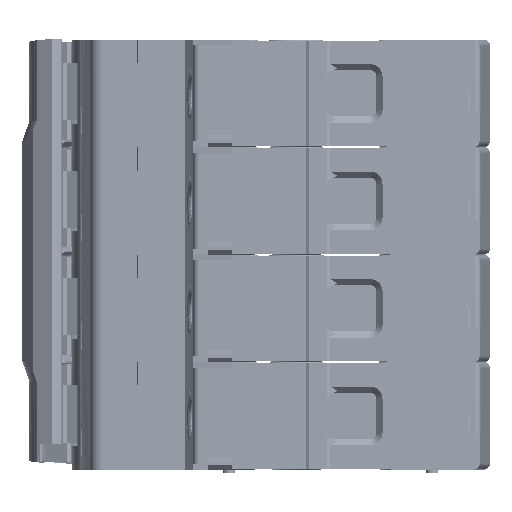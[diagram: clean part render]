
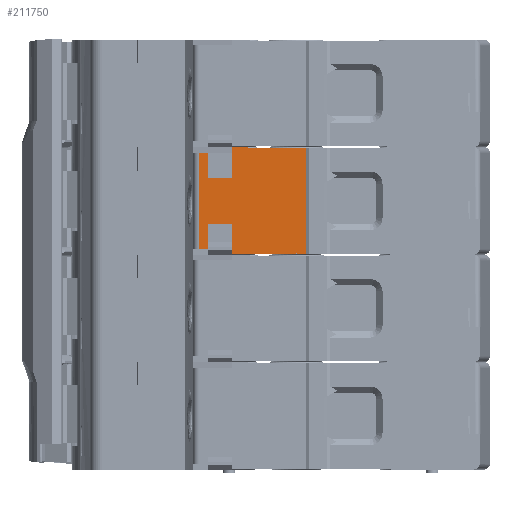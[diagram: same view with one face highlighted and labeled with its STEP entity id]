
A CAD part, left-side view. The second image highlights one B-rep face of the part: STEP entity #211750.
In plain terms, the highlighted planar face has unit normal (-1, 0, 0).
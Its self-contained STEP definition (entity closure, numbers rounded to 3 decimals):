
#15345=DIRECTION('',(0.,-1.,0.));
#15346=VECTOR('',#15345,2.);
#15347=CARTESIAN_POINT('',(4.829,53.476,
-35.26));
#15348=LINE('',#15347,#15346);
#16526=DIRECTION('',(0.,0.,-1.));
#16527=VECTOR('',#16526,4.85);
#16528=CARTESIAN_POINT('',(4.829,53.476,
-30.41));
#16529=LINE('',#16528,#16527);
#16580=DIRECTION('',(0.,0.,-1.));
#16581=VECTOR('',#16580,0.2);
#16582=CARTESIAN_POINT('',(4.829,42.876,
-35.06));
#16583=LINE('',#16582,#16581);
#16584=DIRECTION('',(0.,0.,-1.));
#16585=VECTOR('',#16584,4.05);
#16586=CARTESIAN_POINT('',(4.829,57.476,
-30.41));
#16587=LINE('',#16586,#16585);
#16588=DIRECTION('',(0.,1.,0.));
#16589=VECTOR('',#16588,1.396);
#16590=CARTESIAN_POINT('',(4.829,57.476,
-34.46));
#16591=LINE('',#16590,#16589);
#16592=DIRECTION('',(0.,0.,1.));
#16593=VECTOR('',#16592,15.8);
#16594=CARTESIAN_POINT('',(4.829,58.872,
-34.46));
#16595=LINE('',#16594,#16593);
#16596=DIRECTION('',(0.,-1.,0.));
#16597=VECTOR('',#16596,4.025);
#16598=CARTESIAN_POINT('',(4.829,57.476,
-22.71));
#16599=LINE('',#16598,#16597);
#16600=DIRECTION('',(0.,0.,1.));
#16601=VECTOR('',#16600,5.);
#16602=CARTESIAN_POINT('',(4.829,53.451,
-22.71));
#16603=LINE('',#16602,#16601);
#16604=CARTESIAN_POINT('',(4.829,51.476,
-17.71));
#16605=CARTESIAN_POINT('',(4.829,51.433,
-17.71));
#16606=CARTESIAN_POINT('',(4.829,51.347,
-17.712));
#16607=CARTESIAN_POINT('',(4.829,51.22,
-17.719));
#16608=CARTESIAN_POINT('',(4.829,51.092,
-17.731));
#16609=CARTESIAN_POINT('',(4.829,50.965,
-17.748));
#16610=CARTESIAN_POINT('',(4.829,50.837,
-17.769));
#16611=CARTESIAN_POINT('',(4.829,50.708,
-17.795));
#16612=CARTESIAN_POINT('',(4.829,50.577,
-17.825));
#16613=CARTESIAN_POINT('',(4.829,50.489,
-17.848));
#16614=CARTESIAN_POINT('',(4.829,50.444,
-17.86));
#16616=DIRECTION('',(0.,-1.,0.));
#16617=VECTOR('',#16616,9.149);
#16618=CARTESIAN_POINT('',(4.829,50.444,
-17.86));
#16619=LINE('',#16618,#16617);
#16620=DIRECTION('',(0.,0.,1.));
#16621=VECTOR('',#16620,17.4);
#16622=CARTESIAN_POINT('',(4.829,41.295,
-35.26));
#16623=LINE('',#16622,#16621);
#45918=DIRECTION('',(0.,1.,0.));
#45919=VECTOR('',#45918,1.975);
#45920=CARTESIAN_POINT('',(4.829,51.476,
-17.71));
#45921=LINE('',#45920,#45919);
#46058=DIRECTION('',(0.,0.,1.));
#46059=VECTOR('',#46058,4.05);
#46060=CARTESIAN_POINT('',(4.829,57.476,
-22.71));
#46061=LINE('',#46060,#46059);
#46964=DIRECTION('',(0.,-1.,0.));
#46965=VECTOR('',#46964,4.);
#46966=CARTESIAN_POINT('',(4.829,57.476,
-30.41));
#46967=LINE('',#46966,#46965);
#47006=DIRECTION('',(0.,1.,0.));
#47007=VECTOR('',#47006,1.396);
#47008=CARTESIAN_POINT('',(4.829,57.476,
-18.66));
#47009=LINE('',#47008,#47007);
#56938=DIRECTION('',(0.,-1.,0.));
#56939=VECTOR('',#56938,1.39);
#56940=CARTESIAN_POINT('',(4.829,42.686,
-35.26));
#56941=LINE('',#56940,#56939);
#57198=DIRECTION('',(0.,-1.,0.));
#57199=VECTOR('',#57198,8.6);
#57200=CARTESIAN_POINT('',(4.829,51.476,
-35.26));
#57201=LINE('',#57200,#57199);
#59004=DIRECTION('',(0.,-1.,0.));
#59005=VECTOR('',#59004,0.19);
#59006=CARTESIAN_POINT('',(4.829,42.876,
-35.06));
#59007=LINE('',#59006,#59005);
#59172=DIRECTION('',(0.,0.,-1.));
#59173=VECTOR('',#59172,0.2);
#59174=CARTESIAN_POINT('',(4.829,42.686,
-35.06));
#59175=LINE('',#59174,#59173);
#166177=CARTESIAN_POINT('',(4.83,50.444,
-17.86));
#166179=VERTEX_POINT('',#166177);
#166229=CARTESIAN_POINT('',(4.829,41.295,
-17.86));
#166230=VERTEX_POINT('',#166229);
#167564=CARTESIAN_POINT('',(4.829,51.476,
-17.71));
#167566=VERTEX_POINT('',#167564);
#167573=CARTESIAN_POINT('',(4.829,53.451,
-17.71));
#167574=VERTEX_POINT('',#167573);
#168572=CARTESIAN_POINT('',(4.829,58.872,
-18.66));
#168573=VERTEX_POINT('',#168572);
#168582=CARTESIAN_POINT('',(4.829,57.476,
-18.66));
#168583=VERTEX_POINT('',#168582);
#168600=CARTESIAN_POINT('',(4.829,57.476,
-22.71));
#168601=CARTESIAN_POINT('',(4.829,53.451,
-22.71));
#168602=VERTEX_POINT('',#168600);
#168603=VERTEX_POINT('',#168601);
#170004=CARTESIAN_POINT('',(4.829,42.686,
-35.26));
#170005=VERTEX_POINT('',#170004);
#170006=CARTESIAN_POINT('',(4.829,41.295,
-35.26));
#170007=VERTEX_POINT('',#170006);
#170137=CARTESIAN_POINT('',(4.829,51.476,
-35.26));
#170138=VERTEX_POINT('',#170137);
#170139=CARTESIAN_POINT('',(4.829,42.876,
-35.26));
#170140=VERTEX_POINT('',#170139);
#171155=CARTESIAN_POINT('',(4.829,57.476,
-34.46));
#171156=VERTEX_POINT('',#171155);
#171157=CARTESIAN_POINT('',(4.829,57.476,
-30.41));
#171158=VERTEX_POINT('',#171157);
#171177=CARTESIAN_POINT('',(4.829,53.476,
-30.41));
#171179=VERTEX_POINT('',#171177);
#171181=CARTESIAN_POINT('',(4.829,53.476,
-35.26));
#171182=VERTEX_POINT('',#171181);
#172184=CARTESIAN_POINT('',(4.829,58.872,
-34.46));
#172185=VERTEX_POINT('',#172184);
#172186=CARTESIAN_POINT('',(4.829,42.686,
-35.06));
#172187=VERTEX_POINT('',#172186);
#172188=CARTESIAN_POINT('',(4.829,42.876,
-35.06));
#172189=VERTEX_POINT('',#172188);
#211709=CARTESIAN_POINT('',(4.829,59.772,
-19.36));
#211710=DIRECTION('',(-1.,0.,0.));
#211711=DIRECTION('',(0.,-1.,0.));
#211712=AXIS2_PLACEMENT_3D('',#211709,#211710,#211711);
#211713=PLANE('',#211712);
#211715=ORIENTED_EDGE('',*,*,#211714,.F.);
#211717=ORIENTED_EDGE('',*,*,#211716,.F.);
#211719=ORIENTED_EDGE('',*,*,#211718,.F.);
#211721=ORIENTED_EDGE('',*,*,#211720,.F.);
#211723=ORIENTED_EDGE('',*,*,#211722,.T.);
#211725=ORIENTED_EDGE('',*,*,#211724,.F.);
#211726=ORIENTED_EDGE('',*,*,#210034,.F.);
#211727=ORIENTED_EDGE('',*,*,#211627,.F.);
#211729=ORIENTED_EDGE('',*,*,#211728,.F.);
#211731=ORIENTED_EDGE('',*,*,#211730,.T.);
#211732=ORIENTED_EDGE('',*,*,#211686,.T.);
#211733=ORIENTED_EDGE('',*,*,#211700,.T.);
#211735=ORIENTED_EDGE('',*,*,#211734,.F.);
#211737=ORIENTED_EDGE('',*,*,#211736,.F.);
#211739=ORIENTED_EDGE('',*,*,#211738,.T.);
#211741=ORIENTED_EDGE('',*,*,#211740,.T.);
#211743=ORIENTED_EDGE('',*,*,#211742,.F.);
#211745=ORIENTED_EDGE('',*,*,#211744,.T.);
#211747=ORIENTED_EDGE('',*,*,#211746,.T.);
#211748=EDGE_LOOP('',(#211715,#211717,#211719,#211721,#211723,#211725,#211726,
#211727,#211729,#211731,#211732,#211733,#211735,#211737,#211739,#211741,#211743,
#211745,#211747));
#211749=FACE_OUTER_BOUND('',#211748,.F.);
#211750=ADVANCED_FACE('',(#211749),#211713,.T.);
#16615=B_SPLINE_CURVE_WITH_KNOTS('',3,(#16604,#16605,#16606,#16607,#16608,
#16609,#16610,#16611,#16612,#16613,#16614),.UNSPECIFIED.,.F.,.F.,(4,1,1,1,1,1,1,
1,4),(0.,0.125,0.25,0.375,0.5,0.625,0.75,0.875,1.),
.UNSPECIFIED.);
#210034=EDGE_CURVE('',#171182,#170138,#15348,.T.);
#211627=EDGE_CURVE('',#171179,#171182,#16529,.T.);
#211686=EDGE_CURVE('',#171156,#172185,#16591,.T.);
#211700=EDGE_CURVE('',#172185,#168573,#16595,.T.);
#211714=EDGE_CURVE('',#170007,#166230,#16623,.T.);
#211716=EDGE_CURVE('',#170005,#170007,#56941,.T.);
#211718=EDGE_CURVE('',#172187,#170005,#59175,.T.);
#211720=EDGE_CURVE('',#172189,#172187,#59007,.T.);
#211722=EDGE_CURVE('',#172189,#170140,#16583,.T.);
#211724=EDGE_CURVE('',#170138,#170140,#57201,.T.);
#211728=EDGE_CURVE('',#171158,#171179,#46967,.T.);
#211730=EDGE_CURVE('',#171158,#171156,#16587,.T.);
#211734=EDGE_CURVE('',#168583,#168573,#47009,.T.);
#211736=EDGE_CURVE('',#168602,#168583,#46061,.T.);
#211738=EDGE_CURVE('',#168602,#168603,#16599,.T.);
#211740=EDGE_CURVE('',#168603,#167574,#16603,.T.);
#211742=EDGE_CURVE('',#167566,#167574,#45921,.T.);
#211744=EDGE_CURVE('',#167566,#166179,#16615,.T.);
#211746=EDGE_CURVE('',#166179,#166230,#16619,.T.);
